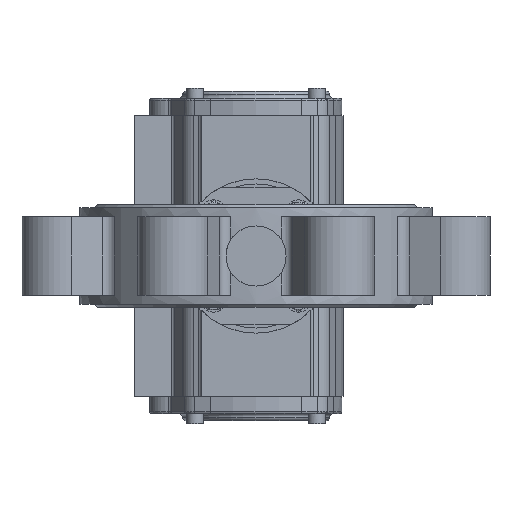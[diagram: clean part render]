
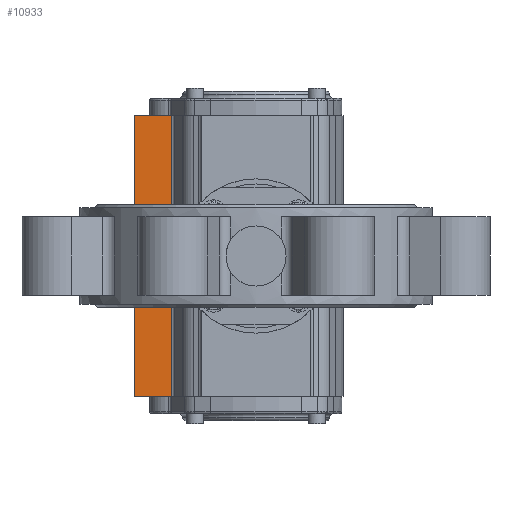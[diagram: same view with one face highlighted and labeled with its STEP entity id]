
A CAD part, front view. The second image highlights one B-rep face of the part: STEP entity #10933.
In plain terms, the highlighted planar face has unit normal (0, -1, 0).
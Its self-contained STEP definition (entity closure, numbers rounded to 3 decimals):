
#70 = ORIENTED_EDGE ( 'NONE', *, *, #3823, .F. ) ;
#1645 = VECTOR ( 'NONE', #16887, 1000. ) ;
#1763 = VECTOR ( 'NONE', #5158, 1000. ) ;
#3320 = AXIS2_PLACEMENT_3D ( 'NONE', #24093, #11721, #5098 ) ;
#3449 = LINE ( 'NONE', #14203, #18238 ) ;
#3650 = VERTEX_POINT ( 'NONE', #3671 ) ;
#3671 = CARTESIAN_POINT ( 'NONE',  ( -81.9, -22., 49.462 ) ) ;
#3823 = EDGE_CURVE ( 'NONE', #18014, #9394, #7077, .T. ) ;
#4552 = ORIENTED_EDGE ( 'NONE', *, *, #15965, .T. ) ;
#5098 = DIRECTION ( 'NONE',  ( 0., 0., 1. ) ) ;
#5158 = DIRECTION ( 'NONE',  ( 1., 0., 0. ) ) ;
#6046 = EDGE_CURVE ( 'NONE', #18014, #7222, #3449, .T. ) ;
#6807 = DIRECTION ( 'NONE',  ( 0., 0., -1. ) ) ;
#6980 = CARTESIAN_POINT ( 'NONE',  ( -81.9, -22., 71. ) ) ;
#7077 = LINE ( 'NONE', #15123, #1645 ) ;
#7222 = VERTEX_POINT ( 'NONE', #6980 ) ;
#7576 = CARTESIAN_POINT ( 'NONE',  ( 81.9, -22., 71. ) ) ;
#9394 = VERTEX_POINT ( 'NONE', #15695 ) ;
#9694 = PLANE ( 'NONE',  #3320 ) ;
#9819 = FACE_OUTER_BOUND ( 'NONE', #22255, .T. ) ;
#10933 = ADVANCED_FACE ( 'NONE', ( #9819 ), #9694, .F. ) ;
#11721 = DIRECTION ( 'NONE',  ( 0., 1., 0. ) ) ;
#13933 = DIRECTION ( 'NONE',  ( -1., 0., 0. ) ) ;
#14136 = ORIENTED_EDGE ( 'NONE', *, *, #26160, .T. ) ;
#14203 = CARTESIAN_POINT ( 'NONE',  ( 81.9, -22., 71. ) ) ;
#15123 = CARTESIAN_POINT ( 'NONE',  ( 81.9, -22., 71. ) ) ;
#15695 = CARTESIAN_POINT ( 'NONE',  ( 81.9, -22., 49.462 ) ) ;
#15965 = EDGE_CURVE ( 'NONE', #7222, #3650, #17158, .T. ) ;
#16887 = DIRECTION ( 'NONE',  ( 0., 0., -1. ) ) ;
#17158 = LINE ( 'NONE', #25545, #25953 ) ;
#17865 = ORIENTED_EDGE ( 'NONE', *, *, #6046, .T. ) ;
#18014 = VERTEX_POINT ( 'NONE', #7576 ) ;
#18238 = VECTOR ( 'NONE', #13933, 1000. ) ;
#19909 = CARTESIAN_POINT ( 'NONE',  ( 81.9, -22., 49.462 ) ) ;
#22255 = EDGE_LOOP ( 'NONE', ( #4552, #14136, #70, #17865 ) ) ;
#24093 = CARTESIAN_POINT ( 'NONE',  ( 81.9, -22., 71. ) ) ;
#25545 = CARTESIAN_POINT ( 'NONE',  ( -81.9, -22., 71. ) ) ;
#25953 = VECTOR ( 'NONE', #6807, 1000. ) ;
#26070 = LINE ( 'NONE', #19909, #1763 ) ;
#26160 = EDGE_CURVE ( 'NONE', #3650, #9394, #26070, .T. ) ;
